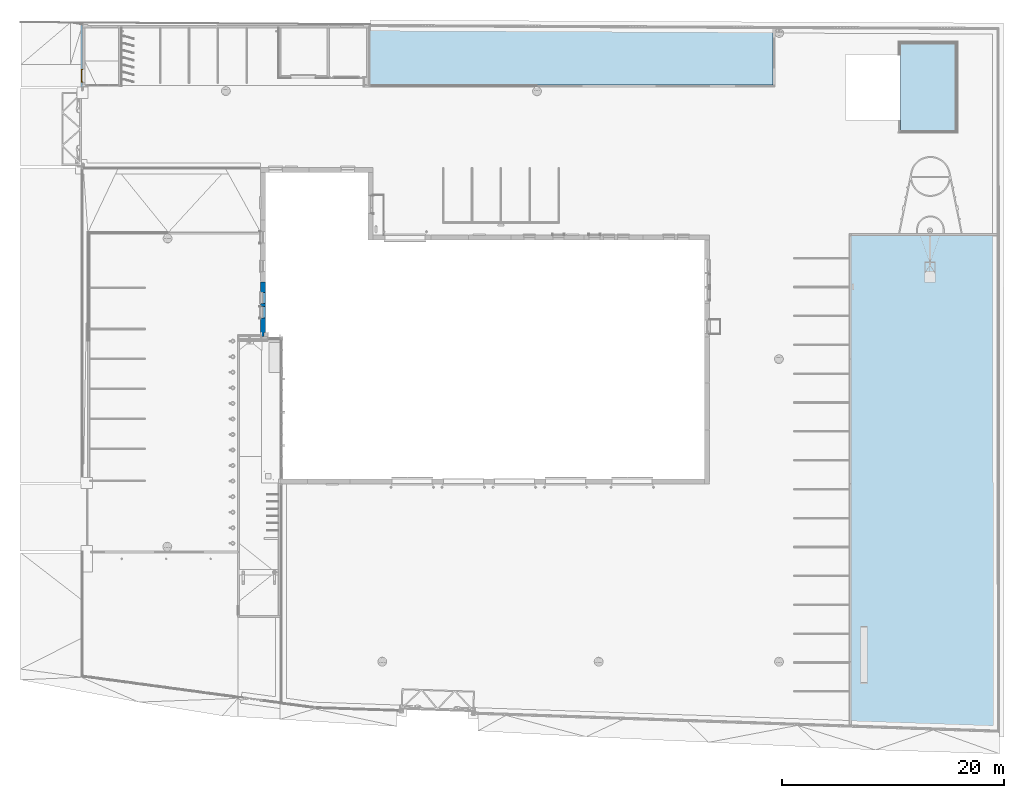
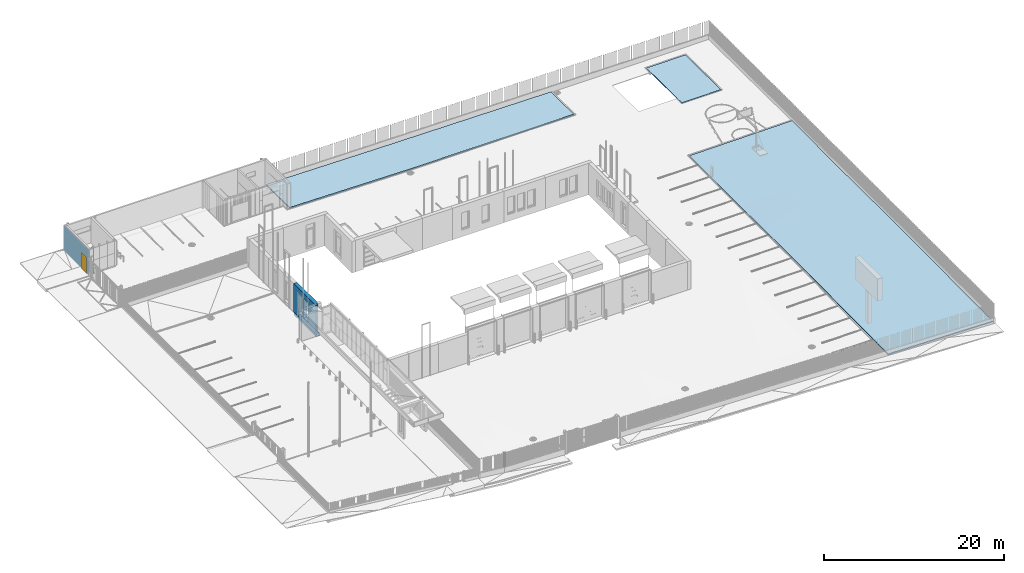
# One storey, part 58 of 77: 3 slabs, 1 door, 1 wall, 8 openings, plus 1 element that does not belong to this part.
"""IFC2X3 building model written with IfcOpenShell, lengths in millimetres."""

from ifc_helpers import new_model, entity, si_unit, converted_unit, derived_unit, direction, frame, frame_2d, origin, place, context, subcontext, project, spatial, rectangle, extrude, faceted_brep, source, transform, mapped, material, layer, layer_set, layer_usage, type_object, type_shapes, element, fill, save


model = new_model("IFC2X3")

# Units and contexts
model_context = context("Model", 3, precision=0.01, world=origin(), true_north=direction((6.12303176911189e-17, 1.0)))
body_context = subcontext(model_context, "Body", "Model", "MODEL_VIEW")
ifc_project = project(units=[si_unit("LENGTHUNIT", "METRE", prefix="MILLI"), si_unit("AREAUNIT", "SQUARE_METRE"), si_unit("VOLUMEUNIT", "CUBIC_METRE"), converted_unit("PLANEANGLEUNIT", "DEGREE", entity("IfcRatioMeasure", 0.0174532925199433), si_unit("PLANEANGLEUNIT", "RADIAN"), dimensions=[0, 0, 0, 0, 0, 0, 0]), si_unit("MASSUNIT", "GRAM", prefix="KILO"), derived_unit("MASSDENSITYUNIT", [(si_unit("MASSUNIT", "GRAM", prefix="KILO"), 1), (si_unit("LENGTHUNIT", "METRE"), -3)]), si_unit("TIMEUNIT", "SECOND"), si_unit("FREQUENCYUNIT", "HERTZ"), si_unit("THERMODYNAMICTEMPERATUREUNIT", "DEGREE_CELSIUS"), derived_unit("THERMALTRANSMITTANCEUNIT", [(si_unit("MASSUNIT", "GRAM", prefix="KILO"), 1), (si_unit("THERMODYNAMICTEMPERATUREUNIT", "KELVIN"), -1), (si_unit("TIMEUNIT", "SECOND"), -3)]), derived_unit("VOLUMETRICFLOWRATEUNIT", [(si_unit("LENGTHUNIT", "METRE"), 3), (si_unit("TIMEUNIT", "SECOND"), -1)]), si_unit("ELECTRICCURRENTUNIT", "AMPERE"), si_unit("ELECTRICVOLTAGEUNIT", "VOLT"), si_unit("POWERUNIT", "WATT"), si_unit("FORCEUNIT", "NEWTON", prefix="KILO"), si_unit("ILLUMINANCEUNIT", "LUX"), si_unit("LUMINOUSFLUXUNIT", "LUMEN"), si_unit("LUMINOUSINTENSITYUNIT", "CANDELA"), derived_unit("USERDEFINED", [(si_unit("MASSUNIT", "GRAM", prefix="KILO"), -1), (si_unit("LENGTHUNIT", "METRE"), -2), (si_unit("TIMEUNIT", "SECOND"), 3), (si_unit("LUMINOUSFLUXUNIT", "LUMEN"), 1)]), derived_unit("LINEARVELOCITYUNIT", [(si_unit("LENGTHUNIT", "METRE"), 1), (si_unit("TIMEUNIT", "SECOND"), -1)]), si_unit("PRESSUREUNIT", "PASCAL"), derived_unit("USERDEFINED", [(si_unit("LENGTHUNIT", "METRE"), -2), (si_unit("MASSUNIT", "GRAM", prefix="KILO"), 1), (si_unit("TIMEUNIT", "SECOND"), -2)])], contexts=[model_context])

# Site, building, storey
site_placement = place(None, origin())
site = spatial("IfcSite", under=ifc_project, at=site_placement, Name="Default", CompositionType="ELEMENT")
building_placement = place(site_placement, origin())
building = spatial("IfcBuilding", under=site, at=building_placement, CompositionType="ELEMENT")
storey_placement = place(building_placement, origin())
storey = spatial("IfcBuildingStorey", under=building, at=storey_placement, Name="1. KORRUS", CompositionType="ELEMENT", Elevation=0.0)

# Slabs
ifc_material_1 = material(Name="Tartaankate")
slab_1_placement = place(storey_placement, origin())
element("IfcSlab", 1, at=slab_1_placement, inside=storey, material=ifc_material_1, Name="Floor:Tartaankate", ObjectType="Floor:Tartaankate", PredefinedType="FLOOR", context=body_context, shape_type="Brep", body=[
    faceted_brep([(62145.0, 39195.0, -80.0), (62145.0, 37747.3184856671, -68.9910151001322), (62145.0, 35250.0, -50.0), (62145.0, 31305.0, -20.0), (62145.0, 31305.0, -120.0), (62145.0, 35250.0, -150.0), (62145.0, 37747.3184856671, -168.991015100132), (62145.0, 39195.0, -180.0), (57895.0, 39195.0, -120.0), (60702.2912005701, 39195.0, -93.5784357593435), (60702.2912005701, 39195.0, -193.578435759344), (57895.0, 39195.0, -220.0), (57663.7664417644, 39195.0, -220.0), (57432.5328835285, 39195.0, -220.0), (57145.0, 39195.0, -220.0), (57145.0, 39195.0, -120.0), (57432.5328835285, 39195.0, -120.0), (57663.7664417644, 39195.0, -120.0), (57145.0, 36762.4229070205, -201.501314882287), (57145.0, 34329.8458140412, -183.002629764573), (57145.0, 31305.0, -160.0), (57145.0, 31305.0, -60.0), (57145.0, 34329.8458140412, -83.0026297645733), (57145.0, 36762.4229070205, -101.501314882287), (57895.0, 31305.0, -50.0), (57607.4671279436, 31305.0, -53.833771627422), (57376.233563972, 31305.0, -56.916885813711), (57376.233563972, 31305.0, -156.916885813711), (57607.4671279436, 31305.0, -153.833771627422), (57895.0, 31305.0, -150.0), (60702.2910037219, 31305.0, -130.183828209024), (60702.2910037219, 31305.0, -30.1838282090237), (57548.1496744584, 35726.3019853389, -91.2589006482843), (57689.1663167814, 34106.3950876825, -76.6239636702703), (57895.0, 36170.1540556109, -93.1635974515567), (57330.3601006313, 35546.1345795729, -91.1090013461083), (57491.8503692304, 33388.0217289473, -72.4367473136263), (57895.0, 36299.6370298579, -94.312369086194), (57895.0, 33737.5770278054, -71.5817987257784), (57895.0, 33802.3185149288, -72.156184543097), (60173.2613248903, 37145.6581319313, -81.7681617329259), (59851.9406323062, 35050.977336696, -67.2344399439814), (57895.0, 36170.1540556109, -193.163597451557), (57689.1663167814, 34106.3950876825, -176.62396367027), (57548.1496744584, 35726.3019853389, -191.258900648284), (57330.3601006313, 35546.1345795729, -191.109001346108), (57491.8503692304, 33388.0217289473, -172.436747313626), (57895.0, 36299.6370298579, -194.312369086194), (57895.0, 33802.3185149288, -172.156184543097), (57895.0, 33737.5770278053, -171.581798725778), (59851.9406323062, 35050.977336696, -167.234439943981), (60173.2613248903, 37145.6581319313, -181.768161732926)], [[[0, 1, 2, 3, 4, 5, 6, 7]], [[8, 9, 0, 7, 10, 11, 12, 13, 14, 15, 16, 17]], [[15, 14, 18, 19, 20, 21, 22, 23]], [[24, 25, 26, 21, 20, 27, 28, 29, 30, 4, 3, 31]], [[22, 21, 26]], [[32, 33, 34]], [[16, 32, 17]], [[16, 23, 35]], [[22, 35, 23]], [[32, 36, 33]], [[34, 17, 32]], [[17, 34, 37, 8]], [[26, 25, 36]], [[16, 15, 23]], [[24, 38, 39, 34, 33]], [[25, 24, 33]], [[26, 36, 22]], [[36, 32, 35]], [[36, 35, 22]], [[16, 35, 32]], [[25, 33, 36]], [[2, 40, 41]], [[41, 31, 2]], [[1, 9, 40]], [[41, 37, 34, 39]], [[8, 40, 9]], [[3, 2, 31]], [[31, 39, 38, 24]], [[31, 41, 39]], [[1, 40, 2]], [[9, 1, 0]], [[8, 37, 40]], [[37, 41, 40]], [[27, 20, 19]], [[42, 43, 44]], [[12, 44, 13]], [[45, 18, 13]], [[18, 45, 19]], [[43, 46, 44]], [[44, 12, 42]], [[12, 11, 47, 42]], [[46, 28, 27]], [[18, 14, 13]], [[43, 42, 48, 49, 29]], [[43, 29, 28]], [[19, 46, 27]], [[45, 44, 46]], [[19, 45, 46]], [[44, 45, 13]], [[46, 43, 28]], [[50, 51, 5]], [[5, 30, 50]], [[51, 10, 6]], [[50, 48, 42, 47]], [[10, 51, 11]], [[30, 5, 4]], [[30, 29, 49, 48]], [[48, 50, 30]], [[5, 51, 6]], [[7, 6, 10]], [[51, 47, 11]], [[51, 50, 47]]]),
])
ifc_material_2 = material(Name=".Muru")
slab_2_placement = place(storey_placement, origin())
element("IfcSlab", 2, at=slab_2_placement, inside=storey, material=ifc_material_2, Name="Floor:Muru", ObjectType="Floor:Muru", PredefinedType="FLOOR", context=body_context, shape_type="Brep", body=[
    faceted_brep([(52700.0, 10791.2327111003, -20.0), (52700.0, 16346.9231862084, 15.0), (52700.0, 21902.6136613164, 50.0), (52700.0, 21902.6136613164, -100.0), (52700.0, 16346.9231862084, -135.0), (52700.0, 10791.2327111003, -170.0), (52700.0, 5317.87751424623, -121.404867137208), (52700.0, 2422.96726177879, -95.7024335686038), (52700.0, -471.942990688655, -70.0), (52700.0, -13748.0740783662, -192.472625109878), (52700.0, -22152.1038850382, -270.0), (52700.0, -22152.1038850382, -120.0), (52700.0, -13748.0740783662, -42.4726251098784), (52700.0, -471.942990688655, 80.0), (52700.0, 2422.96726177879, 54.2975664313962), (52700.0, 5317.87751424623, 28.5951328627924), (58742.1460399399, 21902.6136613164, 118.942924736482), (65845.9741439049, 21902.6136613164, 200.0), (65845.9741439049, 21902.6136613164, 50.0), (58742.1460399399, 21902.6136613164, -31.0570752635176), (65852.1502953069, 10791.2327116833, 120.0), (65853.7594025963, 7896.32244836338, 140.561946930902), (65855.2805578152, 5159.64486049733, 160.0), (65858.4108203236, -471.942990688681, 200.0), (65865.9438592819, -14024.4711147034, 77.5273851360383), (65870.7124094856, -22603.4670690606, 0.0), (65870.7124094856, -22603.4670690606, -150.0), (65865.9438592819, -14024.4711147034, -72.4726148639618), (65858.4108203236, -471.942990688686, 50.0), (65855.2805578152, 5159.64486049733, 10.0), (65853.7594025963, 7896.32244836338, -9.43805306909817), (65852.1502953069, 10791.2327116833, -30.0), (65849.1282321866, 16228.1613745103, 9.14493571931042), (65847.5511880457, 19065.3875179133, 29.5724678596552), (65847.5511880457, 19065.3875179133, 179.572467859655), (65849.1282321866, 16228.1613745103, 159.14493571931), (56448.9927756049, -22280.5826843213, -235.842460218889), (60197.9855512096, -22409.0614836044, -201.684920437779), (60197.9855512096, -22409.0614836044, -51.6849204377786), (56448.9927756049, -22280.5826843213, -85.8424602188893), (62102.9300240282, -12632.0356264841, 55.173520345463), (58320.9894830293, -11937.1429375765, 26.4014558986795), (59279.2054101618, -471.942990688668, 140.0), (63024.6965588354, -471.942990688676, 174.157539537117), (59770.7532500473, -471.942990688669, 144.482740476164), (59329.869419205, 17646.7738032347, 96.8929895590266), (58501.1399847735, 14202.6967238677, 64.6061098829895), (58784.7618164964, 10791.2327113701, 44.7701429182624), (59807.1665545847, 10791.2327114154, 55.6532806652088), (58320.9894830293, -11937.1429375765, -123.59854410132), (62102.9300240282, -12632.0356264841, -94.826479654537), (59279.2054101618, -471.942990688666, -10.0), (63024.6965588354, -471.942990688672, 24.1575395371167), (59770.7532500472, -471.942990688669, -5.51725952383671), (59329.869419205, 17646.7738032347, -53.1070104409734), (58501.1399847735, 14202.6967238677, -85.3938901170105), (59807.1665545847, 10791.2327114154, -94.3467193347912), (58784.7618164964, 10791.2327113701, -105.229857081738), (59205.2477561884, 3870.42304359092, 104.595486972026), (58638.7164907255, 7325.95136033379, 71.1947045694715), (59205.2477561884, 3870.42304359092, -45.4045130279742), (58638.7164907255, 7325.95136033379, -78.8052954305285)], [[[0, 1, 2, 3, 4, 5, 6, 7, 8, 9, 10, 11, 12, 13, 14, 15]], [[2, 16, 17, 18, 19, 3]], [[20, 21, 22, 23, 24, 25, 26, 27, 28, 29, 30, 31, 32, 33, 18, 17, 34, 35]], [[11, 10, 36, 37, 26, 25, 38, 39]], [[12, 11, 39]], [[38, 40, 41]], [[25, 24, 40]], [[41, 39, 38]], [[41, 13, 12]], [[42, 41, 40]], [[12, 39, 41]], [[24, 23, 43]], [[41, 42, 13]], [[38, 25, 40]], [[24, 43, 40]], [[40, 43, 44, 42]], [[16, 45, 34]], [[20, 35, 46]], [[45, 2, 1]], [[35, 45, 46]], [[46, 0, 47, 48, 20]], [[16, 34, 17]], [[16, 2, 45]], [[35, 34, 45]], [[46, 45, 1]], [[0, 46, 1]], [[36, 10, 9]], [[49, 50, 37]], [[50, 27, 26]], [[37, 36, 49]], [[9, 8, 49]], [[50, 49, 51]], [[49, 36, 9]], [[52, 28, 27]], [[8, 51, 49]], [[50, 26, 37]], [[50, 52, 27]], [[50, 51, 53, 52]], [[33, 54, 19]], [[55, 32, 31]], [[4, 3, 54]], [[55, 54, 32]], [[55, 31, 56, 57, 5]], [[18, 33, 19]], [[54, 3, 19]], [[54, 33, 32]], [[4, 54, 55]], [[4, 55, 5]], [[44, 58, 14]], [[59, 58, 22]], [[58, 23, 22]], [[15, 58, 59]], [[21, 47, 59]], [[14, 13, 42, 44]], [[58, 44, 43, 23]], [[15, 14, 58]], [[21, 59, 22]], [[21, 20, 48, 47]], [[0, 15, 59]], [[0, 59, 47]], [[7, 60, 53]], [[29, 60, 61]], [[29, 28, 60]], [[61, 60, 6]], [[61, 57, 30]], [[7, 53, 51, 8]], [[60, 28, 52, 53]], [[60, 7, 6]], [[29, 61, 30]], [[30, 57, 56, 31]], [[61, 6, 5]], [[57, 61, 5]]]),
])
slab_3_placement = place(storey_placement, origin())
element("IfcSlab", 3, at=slab_3_placement, inside=storey, Name="Floor:Muru", ObjectType="Floor:Muru", PredefinedType="FLOOR", context=body_context, shape_type="Brep", body=[
    faceted_brep([(45690.8092295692, 40540.4480114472, -150.0), (45690.8092295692, 40540.4480114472, -300.0), (35056.1200276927, 40590.5691042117, -290.0), (24421.4308258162, 40640.6901969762, -280.0), (19972.8529804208, 40661.6562617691, -256.504052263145), (15524.2751350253, 40682.622326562, -233.008104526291), (9274.72418442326, 40712.0763441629, -200.0), (9274.72418442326, 40712.0763441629, -50.0), (15524.2751350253, 40682.622326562, -83.008104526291), (19972.8529804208, 40661.6562617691, -106.504052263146), (24421.4308258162, 40640.6901969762, -130.0), (35056.1200276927, 40590.5691042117, -140.0), (45690.8092295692, 37702.2983526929, -122.122794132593), (45690.8092295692, 35449.9994344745, -100.0), (45690.8092295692, 35449.9994344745, -250.0), (45690.8092295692, 37702.2983526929, -272.122794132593), (24421.4308258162, 35449.9994344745, -180.0), (18171.8800577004, 35449.9994344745, -105.731766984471), (13723.3021210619, 35449.9994344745, -52.8658834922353), (9274.72418442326, 35449.9994344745, 0.0), (9274.72418442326, 35449.9994344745, -150.0), (13723.3021210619, 35449.9994344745, -202.865883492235), (18171.8800577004, 35449.9994344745, -255.731766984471), (24421.4308258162, 35449.9994344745, -330.0), (29649.6314199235, 35449.9994344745, -310.335295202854), (35234.4080413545, 35449.9994344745, -289.329409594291), (35234.4080413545, 35449.9994344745, -139.329409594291), (29649.6314199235, 35449.9994344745, -160.335295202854), (9274.72418442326, 39166.6078107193, -185.315032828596), (9274.72418442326, 37621.1392772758, -170.630065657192), (9274.72418442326, 37621.1392772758, -20.6300656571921), (9274.72418442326, 39166.6078107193, -35.3150328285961), (24421.4308258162, 36974.5019516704, -165.315032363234), (19151.4451148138, 39202.4235193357, -106.431652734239), (15566.1017617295, 38377.2853466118, -79.5003333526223), (15947.590313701, 36815.2938849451, -80.8506020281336), (20089.9772683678, 37745.7469352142, -119.096777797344), (24421.4308258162, 38344.0389887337, -152.122789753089), (24421.4308258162, 38499.0044688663, -150.630064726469), (32442.0189302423, 38008.6577161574, -143.729557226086), (39111.6477516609, 38260.9202688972, -135.211246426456), (24421.4308258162, 36974.5019516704, -315.315032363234), (19151.4451148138, 39202.4235193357, -256.431652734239), (15566.1017617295, 38377.2853466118, -229.500333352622), (15947.590313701, 36815.2938849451, -230.850602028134), (20089.9772683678, 37745.7469352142, -269.096777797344), (24421.4308258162, 38499.0044688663, -300.630064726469), (24421.4308258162, 38344.0389887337, -302.122789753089), (32442.0189302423, 38008.6577161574, -293.729557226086), (39111.6477516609, 38260.9202688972, -285.211246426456)], [[[0, 1, 2, 3, 4, 5, 6, 7, 8, 9, 10, 11]], [[0, 12, 13, 14, 15, 1]], [[16, 17, 18, 19, 20, 21, 22, 23, 24, 25, 14, 13, 26, 27]], [[7, 6, 28, 29, 20, 19, 30, 31]], [[17, 16, 32]], [[10, 9, 8, 33]], [[30, 34, 31]], [[30, 18, 35]], [[17, 35, 18]], [[34, 36, 33]], [[8, 31, 34]], [[8, 7, 31]], [[35, 17, 36]], [[30, 19, 18]], [[36, 32, 37, 38]], [[30, 35, 34]], [[32, 36, 17]], [[33, 8, 34]], [[35, 36, 34]], [[33, 38, 10]], [[38, 33, 36]], [[26, 39, 27]], [[40, 11, 39]], [[13, 12, 0, 40]], [[26, 13, 40]], [[39, 10, 38, 37]], [[40, 0, 11]], [[27, 39, 37]], [[27, 37, 32, 16]], [[39, 11, 10]], [[26, 40, 39]], [[41, 23, 22]], [[42, 5, 4, 3]], [[28, 43, 29]], [[44, 21, 29]], [[21, 44, 22]], [[42, 45, 43]], [[43, 28, 5]], [[28, 6, 5]], [[45, 22, 44]], [[21, 20, 29]], [[45, 46, 47, 41]], [[43, 44, 29]], [[22, 45, 41]], [[43, 5, 42]], [[43, 45, 44]], [[3, 46, 42]], [[45, 42, 46]], [[24, 48, 25]], [[48, 2, 49]], [[49, 1, 15, 14]], [[49, 14, 25]], [[48, 47, 46, 3]], [[2, 1, 49]], [[47, 48, 24]], [[24, 23, 41, 47]], [[3, 2, 48]], [[48, 49, 25]]]),
])

# Wall, openings, door
ifc_material_3 = material(Name="Must-al-komposiitplaat")
ifc_layer_1 = layer(ifc_material_3, 5.0)
ifc_material_4 = material(Name="Metal Stud Layer")
ifc_layer_2 = layer(ifc_material_4, 95.0)
ifc_layer_set_1 = layer_set([ifc_layer_1, ifc_layer_2], Name="Basic Wall:Alumiinium-komposiitplaat roovidel")
ifc_layer_usage = layer_usage(ifc_layer_set_1, "AXIS2", "NEGATIVE", 50.0)
wall_type_1 = type_object("IfcWallType", Name="Basic Wall:Alumiinium-komposiitplaat roovidel", PredefinedType="STANDARD", material=ifc_layer_set_1)
wall_1_placement = place(storey_placement, frame((-16550.2351867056, 35300.0994344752, 50.0), z_axis=(0.0, 0.0, 1.0), x_axis=(0.0, 1.0, 0.0)))
wall_1 = element("IfcWallStandardCase", 4, at=wall_1_placement, inside=storey, type_object=wall_type_1, material=ifc_layer_usage, Name="Basic Wall:Alumiinium-komposiitplaat roovidel", ObjectType="Basic Wall:Alumiinium-komposiitplaat roovidel", context=body_context, shape_type="SweptSolid", body=[
    extrude(rectangle(XDim=5599.99999999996, YDim=99.9999999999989, at=frame_2d((2799.99999999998, 0.0), x_axis=(-1.0, 0.0))), origin(), (0.0, 0.0, 1.0), 3320.0),
])
opening_1_placement = place(wall_1_placement, origin())
element("IfcOpeningElement", 5, at=opening_1_placement, cuts=wall_1, Name="Basic Wall:Alumiinium-komposiitplaat roovidel", ObjectType="Recess", context=body_context, shape_type="SweptSolid", body=[
    extrude(rectangle(XDim=3320.0, YDim=4.99999999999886, at=frame_2d((2.27373675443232e-13, 0.0), x_axis=(1.0, 0.0))), frame((5497.5, 45.0, 1660.0), z_axis=(0.0, 1.0, 0.0), x_axis=(0.0, 0.0, 1.0)), (0.0, 0.0, 1.0), 5.00000000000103),
])
opening_2_placement = place(wall_1_placement, origin())
element("IfcOpeningElement", 6, at=opening_2_placement, cuts=wall_1, Name="Basic Wall:Alumiinium-komposiitplaat roovidel", ObjectType="Recess", context=body_context, shape_type="SweptSolid", body=[
    extrude(rectangle(XDim=3320.0, YDim=4.99999999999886, at=frame_2d((2.27373675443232e-13, 0.0), x_axis=(1.0, 0.0))), frame((4247.5, 45.0, 1660.0), z_axis=(0.0, 1.0, 0.0), x_axis=(0.0, 0.0, 1.0)), (0.0, 0.0, 1.0), 5.00000000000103),
])
opening_3_placement = place(wall_1_placement, origin())
element("IfcOpeningElement", 7, at=opening_3_placement, cuts=wall_1, Name="Basic Wall:Alumiinium-komposiitplaat roovidel", ObjectType="Recess", context=body_context, shape_type="SweptSolid", body=[
    extrude(rectangle(XDim=3320.0, YDim=4.99999999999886, at=frame_2d((2.27373675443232e-13, 0.0), x_axis=(1.0, 0.0))), frame((5497.5, 45.0, 1660.0), z_axis=(0.0, 1.0, 0.0), x_axis=(0.0, 0.0, 1.0)), (0.0, 0.0, 1.0), 5.00000000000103),
])
opening_4_placement = place(wall_1_placement, origin())
element("IfcOpeningElement", 8, at=opening_4_placement, cuts=wall_1, Name="Basic Wall:Alumiinium-komposiitplaat roovidel", ObjectType="Recess", context=body_context, shape_type="SweptSolid", body=[
    extrude(rectangle(XDim=3320.0, YDim=4.99999999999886, at=frame_2d((2.27373675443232e-13, 0.0), x_axis=(1.0, 0.0))), frame((2997.5, 45.0, 1660.0), z_axis=(0.0, 1.0, 0.0), x_axis=(0.0, 0.0, 1.0)), (0.0, 0.0, 1.0), 5.00000000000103),
])
opening_5_placement = place(wall_1_placement, origin())
element("IfcOpeningElement", 9, at=opening_5_placement, cuts=wall_1, Name="Basic Wall:Alumiinium-komposiitplaat roovidel", ObjectType="Recess", context=body_context, shape_type="SweptSolid", body=[
    extrude(rectangle(XDim=3320.0, YDim=4.99999999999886, at=frame_2d((2.27373675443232e-13, 0.0), x_axis=(1.0, 0.0))), frame((1747.5, 45.0, 1660.0), z_axis=(0.0, 1.0, 0.0), x_axis=(0.0, 0.0, 1.0)), (0.0, 0.0, 1.0), 5.00000000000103),
])
opening_6_placement = place(wall_1_placement, origin())
element("IfcOpeningElement", 10, at=opening_6_placement, cuts=wall_1, Name="Basic Wall:Alumiinium-komposiitplaat roovidel", ObjectType="Recess", context=body_context, shape_type="SweptSolid", body=[
    extrude(rectangle(XDim=1250.0, YDim=4.99999999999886, at=frame_2d((-1.13686837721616e-13, 0.0), x_axis=(1.0, 0.0))), frame((1002.5, 45.0, 2695.0), z_axis=(0.0, 1.0, 0.0), x_axis=(0.0, 0.0, 1.0)), (0.0, 0.0, 1.0), 5.00000000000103),
])
opening_7_placement = place(wall_1_placement, origin())
element("IfcOpeningElement", 11, at=opening_7_placement, cuts=wall_1, Name="Basic Wall:Alumiinium-komposiitplaat roovidel", ObjectType="Recess", context=body_context, shape_type="SweptSolid", body=[
    extrude(rectangle(XDim=3320.0, YDim=4.99999999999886, at=frame_2d((2.27373675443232e-13, 0.0), x_axis=(1.0, 0.0))), frame((97.4999999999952, 45.0, 1660.0), z_axis=(0.0, 1.0, 0.0), x_axis=(0.0, 0.0, 1.0)), (0.0, 0.0, 1.0), 5.00000000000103),
])
opening_8_placement = place(wall_1_placement, frame((400.0, -50.0, -130.0)))
opening_8 = element("IfcOpeningElement", 12, at=opening_8_placement, cuts=wall_1, Name="uks_1p:VU12-3_1200x2200:1", ObjectType="Opening", context=body_context, shape_type="SweptSolid", body=[
    extrude(rectangle(XDim=1200.0, YDim=2200.0, at=frame_2d((1100.0, 600.0), x_axis=(0.0, 1.0))), frame((0.0, 0.0, 0.0), z_axis=(0.0, 1.0, 0.0), x_axis=(0.0, 0.0, 1.0)), (0.0, 0.0, 1.0), 100.0),
])
ifc_material_5 = material(Name="must (RAL9005)")
door_style = type_object("IfcDoorStyle", Name="VU12-3_1200x2200", ConstructionType="NOTDEFINED", OperationType="NOTDEFINED", ParameterTakesPrecedence=False, Sizeable=False, material=ifc_material_5)
shared_shape = source(origin(), body_context, "Body", "Brep", [
    faceted_brep([(1160.0, 29.0, 2160.0), (40.0, 29.0, 2160.0), (40.0, 29.0, 0.0), (1160.0, 29.0, 0.0), (1160.0, 80.0, 2160.0), (1160.0, 80.0, 0.0), (40.0, 80.0, 0.0), (40.0, 80.0, 2160.0)], [[[0, 1, 2, 3]], [[4, 5, 6, 7]], [[1, 0, 4, 7]], [[2, 1, 7, 6]], [[3, 2, 6, 5]], [[0, 3, 5, 4]]]),
    faceted_brep([(0.0, -30.0, 0.0), (0.0, 80.0, 0.0), (40.0, 80.0, 0.0), (40.0, 29.0, 0.0), (55.0, 29.0, 0.0), (55.0, -30.0, 0.0), (0.0, -30.0, 2200.0), (0.0, 80.0, 2200.0), (1200.0, 80.0, 2200.0), (1200.0, 80.0, 0.0), (1160.0, 80.0, 0.0), (1160.0, 80.0, 2160.0), (40.0, 80.0, 2160.0), (40.0, 29.0, 2160.0), (1160.0, 29.0, 2160.0), (1160.0, 29.0, 0.0), (1145.0, 29.0, 0.0), (1145.0, 29.0, 2145.0), (55.0, 29.0, 2145.0), (55.0, -30.0, 2145.0), (1145.0, -30.0, 2145.0), (1145.0, -30.0, 0.0), (1200.0, -30.0, 0.0), (1200.0, -30.0, 2200.0)], [[[0, 1, 2, 3, 4, 5]], [[1, 0, 6, 7]], [[2, 1, 7, 8, 9, 10, 11, 12]], [[3, 2, 12, 13]], [[4, 3, 13, 14, 15, 16, 17, 18]], [[5, 4, 18, 19]], [[0, 5, 19, 20, 21, 22, 23, 6]], [[8, 23, 22, 9]], [[22, 21, 16, 15, 10, 9]], [[14, 11, 10, 15]], [[20, 17, 16, 21]], [[7, 6, 23, 8]], [[13, 12, 11, 14]], [[19, 18, 17, 20]]]),
])
type_shapes(door_style, [shared_shape])
door_placement = place(opening_8_placement, origin())
door = element("IfcDoor", 13, at=door_placement, inside=storey, type_object=door_style, material=ifc_material_5, Name="uks_1p:VU12-3_1200x2200", ObjectType="VU12-3_1200x2200", OverallHeight=2200.0, OverallWidth=1200.0, context=body_context, shape_type="MappedRepresentation", body=[
    mapped(shared_shape, transform((0.0, 0.0, 0.0), scale=1.0)),
])
fill(opening_8, door)

# Wall
ifc_material_6 = material(Name="RECKLI 1 173 THUR by Polantis 2016-toon3")
ifc_layer_3 = layer(ifc_material_6, 100.0)
ifc_material_7 = material(Name="Soojusisolatsioon EPS")
ifc_layer_4 = layer(ifc_material_7, 200.0)
ifc_material_8 = material(Name="r/b")
ifc_layer_5 = layer(ifc_material_8, 150.0)
ifc_layer_set_2 = layer_set([ifc_layer_3, ifc_layer_4, ifc_layer_5], Name="Basic Wall:VS-1_toon-b")
wall_type_2 = type_object("IfcWallType", Name="Basic Wall:VS-1_toon-b", PredefinedType="STANDARD", material=ifc_layer_set_2)
wall_2_placement = place(storey_placement, frame((-225.0, 17740.0006972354, -400.0), z_axis=(0.0, 0.0, 1.0), x_axis=(0.0, -1.0, 0.0)))
element("IfcWall", 14, at=wall_2_placement, inside=storey, type_object=wall_type_2, Name="Basic Wall:VS-1_toon-b", ObjectType="Basic Wall:VS-1_toon-b", context=body_context, shape_type="Brep", body=[
    faceted_brep([(4940.00069723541, -225.0, 4265.0), (4880.0, -225.0, 4265.0), (4740.0, -225.0, 4265.0), (0.0, -225.0, 4265.0), (0.0, -225.0, 400.0), (4940.00069723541, -225.0, 400.0), (939.997400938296, -225.0, 3600.0), (1939.99740093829, -225.0, 3600.0), (1939.99740093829, -225.0, 878.057009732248), (939.997400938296, -225.0, 878.057009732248), (2240.00097999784, -225.0, 3600.0), (3240.00097999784, -225.0, 3600.0), (3240.00097999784, -225.0, 878.057009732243), (2240.00097999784, -225.0, 878.057009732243), (4940.00069723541, 225.0, 0.0), (0.0, 225.0, 0.0), (0.0, 225.0, 4265.0), (4540.00069726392, 225.0, 4265.0), (4540.00069726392, 225.0, 400.0), (4940.00069723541, 225.0, 400.0), (3240.00097999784, 225.0, 900.0), (3240.00097999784, 225.0, 3225.0), (2240.00097999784, 225.0, 3225.0), (2240.00097999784, 225.0, 900.0), (1939.99740093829, 225.0, 900.0), (1939.99740093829, 225.0, 3225.0), (939.997400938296, 225.0, 3225.0), (939.997400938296, 225.0, 900.0), (4940.00069723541, -205.0, 0.0), (0.0, -205.0, 0.0), (4940.00069723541, -125.0, 4265.0), (4940.00069723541, -205.0, 400.0), (4940.00069723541, 75.0, 400.0), (4940.00069723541, 75.0, 4265.0), (0.0, -205.0, 400.0), (0.0, -205.0, 4265.0), (0.0, -125.0, 4265.0), (4540.00069726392, 75.0, 4265.0), (939.997400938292, -25.0, 3225.0), (1939.99740093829, -25.0, 3225.0), (1939.99740093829, -25.0, 3600.0), (939.997400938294, -25.0, 3600.0), (1939.99740093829, -100.555118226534, 900.0), (939.997400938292, -100.555118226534, 900.0), (2240.00097999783, -25.0, 3225.0), (3240.00097999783, -25.0, 3225.0), (3240.00097999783, -25.0, 3600.0), (2240.00097999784, -25.0, 3600.0), (3240.00097999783, -100.555118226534, 900.0), (2240.00097999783, -100.555118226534, 900.0), (4540.00069726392, 75.0, 400.0)], [[[0, 1, 2, 3, 4, 5], [6, 7, 8, 9], [10, 11, 12, 13]], [[14, 15, 16, 17, 18, 19], [20, 21, 22, 23], [24, 25, 26, 27]], [[15, 14, 28, 29]], [[30, 0, 5, 31, 28, 14, 19, 32, 33]], [[16, 15, 29, 34, 4, 3, 35, 36]], [[36, 30, 33, 37, 17, 16]], [[3, 2, 1, 0, 30, 36, 35]], [[31, 34, 29, 28]], [[34, 31, 5, 4]], [[38, 39, 40, 41]], [[7, 6, 41, 40]], [[40, 39, 25, 24, 42, 8, 7]], [[42, 24, 27, 43]], [[38, 41, 6, 9, 43, 27, 26]], [[39, 38, 26, 25]], [[8, 42, 43, 9]], [[44, 45, 46, 47]], [[11, 10, 47, 46]], [[46, 45, 21, 20, 48, 12, 11]], [[48, 20, 23, 49]], [[44, 47, 10, 13, 49, 23, 22]], [[45, 44, 22, 21]], [[12, 48, 49, 13]], [[50, 32, 19, 18]], [[32, 50, 37, 33]], [[50, 18, 17, 37]]]),
])

save(model, "model.ifc")
